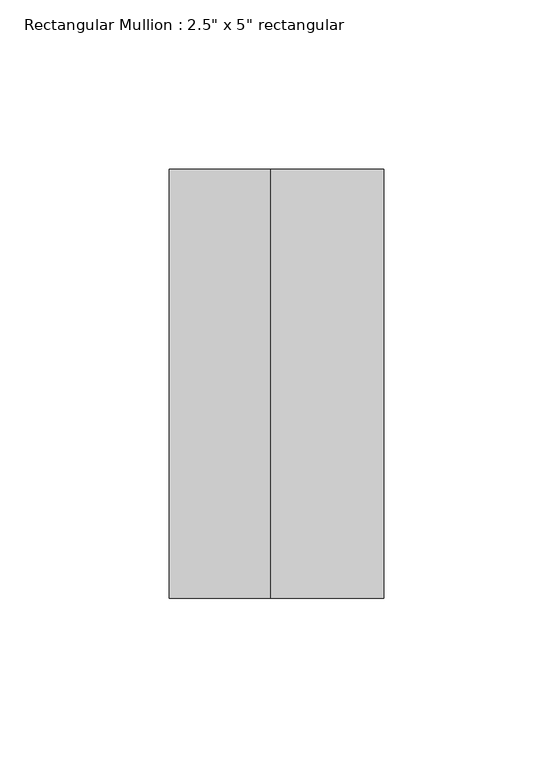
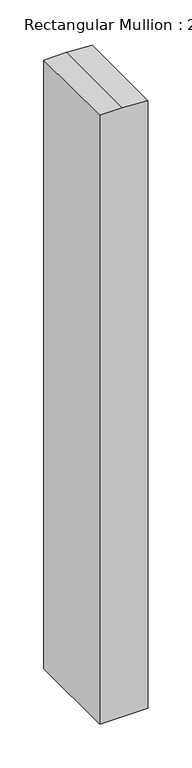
"""IFC4 building model written with IfcOpenShell, lengths in millimetres: member geometry."""

from ifc_helpers import new_model, si_unit, frame, origin, place, context, project, spatial, circle_curve, source, transform, mapped, element, save
from ifc_brep_helpers import plane_surface, cylinder_surface, advanced_brep


def member_e5f99422(model_context):
    return source(origin(), model_context, "Body", "AdvancedBrep", [
        advanced_brep(
        [(31.75, 63.5, -910.8510976), (31.75, -63.5, -910.8510976), (-31.75, -63.5, -910.8510976), (-31.75, 63.5, -910.8510976), (-31.75, 63.5, -63.7839864), (-1.6185881, 63.5, -63.5154086), (31.75, 63.5, -65.4916742), (-31.75, -63.5, -63.7839864), (31.75, -63.5, -65.4916742), (-1.6185887, -63.5, -63.5154086)],
        [
            (0, 1),
            (1, 2),
            (2, 3),
            (3, 0),
            (4, 5, circle_curve(frame((185.0658552, 63.5, -22697.749762), z_axis=(0.0, 1.0, 0.0), x_axis=(-0.14243519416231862, 0.0, 0.989804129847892)), 22635.0042157)),
            (5, 6),
            (6, 0),
            (3, 4),
            (7, 4),
            (2, 7),
            (8, 9),
            (9, 7, circle_curve(frame((185.0658552, -63.5, -22697.749762), z_axis=(0.0, -1.0, 0.0), x_axis=(-0.14243519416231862, 0.0, 0.989804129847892)), 22635.0042157)),
            (1, 8),
            (6, 8),
            (5, 9),
        ],
        [
            plane_surface(frame((0.0, -70.9951583, -910.8510976), z_axis=(0.0, 0.0, -1.0), x_axis=(-1.0, 0.0, 0.0))),
            plane_surface(frame((31.75, 63.5, 0.0), z_axis=(0.0, 1.0, 0.0), x_axis=(0.0, 0.0, -1.0))),
            plane_surface(frame((-31.75, 63.5, 0.0), z_axis=(-1.0, 0.0, 0.0), x_axis=(0.0, 0.0, -1.0))),
            plane_surface(frame((-31.75, -63.5, 0.0), z_axis=(0.0, -1.0, 0.0), x_axis=(0.0, 0.0, -1.0))),
            plane_surface(frame((31.75, -63.5, 0.0), z_axis=(1.0, 0.0, 0.0), x_axis=(0.0, 0.0, -1.0))),
            plane_surface(frame((-1.6185887, 63.5, -63.5154086), z_axis=(0.05912172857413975, 0.0, 0.9982507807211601), x_axis=(0.9982507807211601, 0.0, -0.05912172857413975))),
            cylinder_surface(frame((185.0658552, 0.0, -22697.749762), z_axis=(0.0, 1.0000000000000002, 0.0), x_axis=(-0.14243519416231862, 0.0, 0.989804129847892)), 22635.0042157),
        ],
        [
            (0, [[1, 2, 3, 4]]),
            (1, [[5, 6, 7, -4, 8]]),
            (2, [[9, -8, -3, 10]]),
            (3, [[11, 12, -10, -2, 13]]),
            (4, [[14, -13, -1, -7]]),
            (5, [[-6, 15, -11, -14]]),
            (6, [[-5, -9, -12, -15]]),
        ],
    ),
    ])


if __name__ == "__main__":
    model = new_model("IFC4")
    model_context = context("Model", 3, world=origin())
    ifc_project = project(units=[si_unit("LENGTHUNIT", "METRE", prefix="MILLI")], contexts=[model_context])
    site = spatial("IfcSite", under=ifc_project)
    building = spatial("IfcBuilding", under=site)
    placement = place(None, origin())
    member_shape = member_e5f99422(model_context)
    element("IfcMember", 1, ObjectType="Rectangular Mullion : 2.5\" x 5\" rectangular", at=placement, inside=building, context=model_context, shape_type="MappedRepresentation", body=[
        mapped(member_shape, transform((0.0, 0.0, 0.0), x_axis=(1.0, 0.0, 0.0), y_axis=(0.0, 1.0, 0.0), z_axis=(0.0, 0.0, 1.0))),
    ])
    save(model, "model.ifc")
